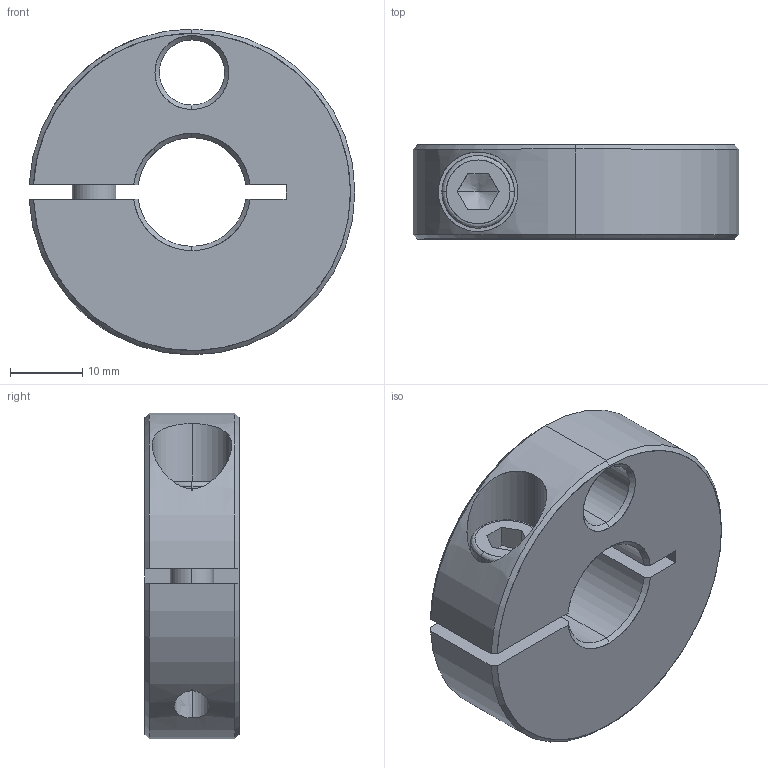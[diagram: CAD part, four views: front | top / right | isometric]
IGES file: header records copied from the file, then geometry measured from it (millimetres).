
Start section: SolidWorks IGES FILE using analytic representation for surfaces
Global section: file name: C:\WIX2\Positioning\3865\3865W015.igs; native system: SolidWorks 2003 by SolidWorks Corporation; preprocessor: Version 5.3; author: Joan; date: 030722.172918; units: millimetre
Bounding box: 44.98 x 13 x 45 mm (x, y, z)
Surface area: 7148.8 mm2 (no closed solid volume)
Topology: 0 solids, 0 shells, 66 faces, 1003 edges, 1001 vertices
Faces by surface type: revolution 46, bspline 20
